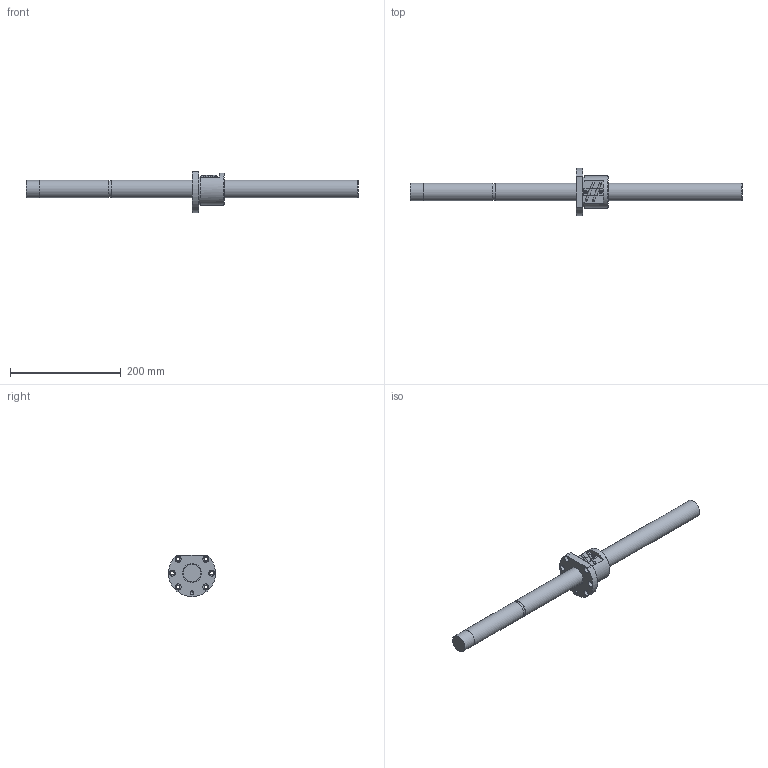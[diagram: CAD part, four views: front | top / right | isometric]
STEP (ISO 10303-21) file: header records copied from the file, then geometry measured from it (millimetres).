
FILE_DESCRIPTION((''),'2;1');
FILE_NAME('D:\製品 (図面)\カタログ用3D\ネジ関連\STEP形式\KBS(C)\KBS(C)3205-600.stp','2010-06-02T14:22:57',('Tsuchiya'),(''),'Autodesk Inventor 10','Autodesk Inventor 10','');
FILE_SCHEMA(('AUTOMOTIVE_DESIGN { 1 0 10303 214 1 1 1 1 }'));
Length unit declared in the file: millimetre
Products named in the file (3): KBS(C)3205-600; KBS(C)3205-6001; KBS(C)3205-6002
Assembly tree (2 placements, depth 2):
  KBS(C)3205-600
    KBS(C)3205-6001
    KBS(C)3205-6002
Bounding box: 600 x 84.99 x 74.5 mm (x, y, z)
Volume: 605517.7 mm3; surface area: 91589.1 mm2
Topology: 2 solids, 2 shells, 120 faces, 314 edges, 207 vertices
Faces by surface type: plane 48, cylinder 44, bspline 20, cone 4, torus 4
Full cylindrical faces by diameter (mm): 3.2 x2, 5.6 x1, 6 x1, 6.6 x6, 11 x6, 29.5 x1, 31.5 x1, 32 x3, 34 x2, 58 x1
Entity records: 3857 total; most frequent: CARTESIAN_POINT 1027, DIRECTION 546, ORIENTED_EDGE 532, EDGE_CURVE 266, AXIS2_PLACEMENT_3D 207, VERTEX_POINT 196, EDGE_LOOP 192, VECTOR 132
